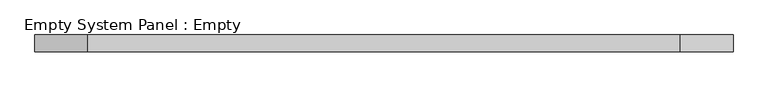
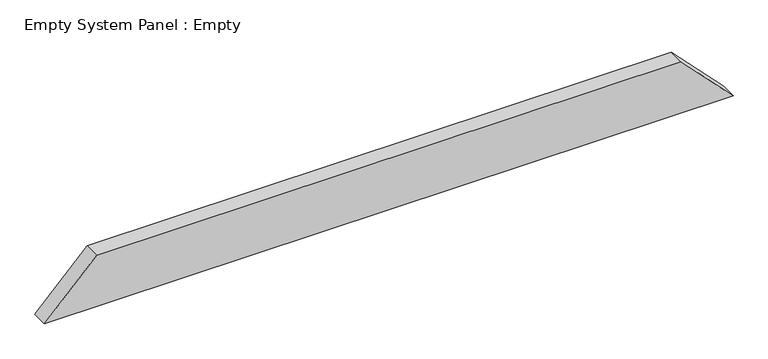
"""IFC4 building model written with IfcOpenShell, lengths in millimetres: plate geometry, Empty System Panel : Empty."""

from ifc_helpers import new_model, si_unit, frame, origin, place, context, project, spatial, polyline, outline, extrude, source, transform, mapped, element, save


def empty_system_panel_empty_26c64da4(model_context):
    return source(origin(), model_context, "Body", "SweptSolid", [
        extrude(outline(polyline([(0.0, -2088.1346974), (0.0, 2088.1346974), (330.0, 1772.0520232), (330.0, -1772.0520232), (0.0, -2088.1346974)])), frame((0.0, -50.0, 0.0), z_axis=(0.0, 1.0, 0.0), x_axis=(0.0, 0.0, 1.0)), (0.0, 0.0, 1.0), 100.0),
    ])


if __name__ == "__main__":
    model = new_model("IFC4")
    model_context = context("Model", 3, world=origin())
    ifc_project = project(units=[si_unit("LENGTHUNIT", "METRE", prefix="MILLI")], contexts=[model_context])
    site = spatial("IfcSite", under=ifc_project)
    building = spatial("IfcBuilding", under=site)
    placement = place(None, origin())
    empty_system_panel_empty_shape = empty_system_panel_empty_26c64da4(model_context)
    element("IfcPlate", 1, ObjectType="Empty System Panel : Empty", at=placement, inside=building, context=model_context, shape_type="MappedRepresentation", body=[
        mapped(empty_system_panel_empty_shape, transform((0.0, 0.0, 0.0), x_axis=(1.0, 0.0, 0.0), y_axis=(0.0, 1.0, 0.0), z_axis=(0.0, 0.0, 1.0))),
    ])
    save(model, "model.ifc")
